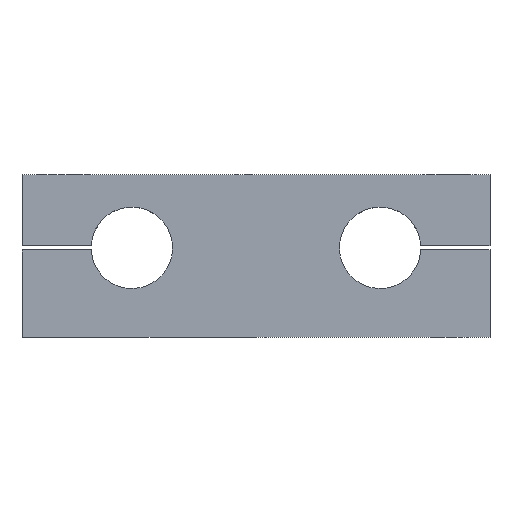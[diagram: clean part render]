
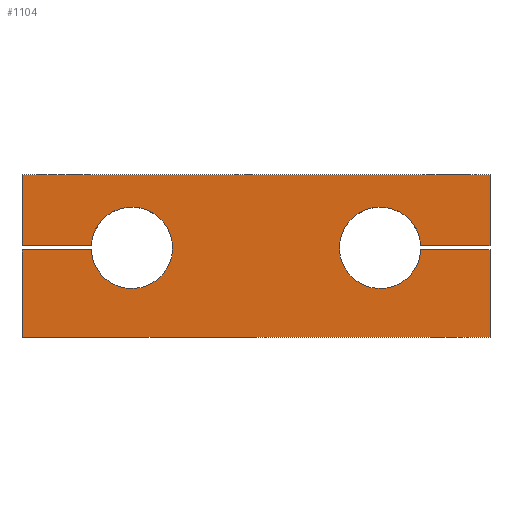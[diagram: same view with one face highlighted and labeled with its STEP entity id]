
A CAD part, top view. The second image highlights one B-rep face of the part: STEP entity #1104.
In plain terms, the highlighted planar face has unit normal (0, 0, 1).
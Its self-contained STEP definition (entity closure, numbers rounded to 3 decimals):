
#10 = VECTOR ( 'NONE', #1111, 1000. ) ;
#21 = PLANE ( 'NONE',  #122 ) ;
#25 = DIRECTION ( 'NONE',  ( 0., -1., 0. ) ) ;
#39 = EDGE_CURVE ( 'NONE', #835, #633, #185, .T. ) ;
#64 = CIRCLE ( 'NONE', #273, 20. ) ;
#69 = ORIENTED_EDGE ( 'NONE', *, *, #39, .F. ) ;
#85 = DIRECTION ( 'NONE',  ( 1., 0., 0. ) ) ;
#93 = DIRECTION ( 'NONE',  ( 1., 0., 0. ) ) ;
#110 = DIRECTION ( 'NONE',  ( 1., 0., 0. ) ) ;
#122 = AXIS2_PLACEMENT_3D ( 'NONE', #434, #200, #277 ) ;
#135 = VERTEX_POINT ( 'NONE', #567 ) ;
#141 = VECTOR ( 'NONE', #1054, 1000. ) ;
#155 = VERTEX_POINT ( 'NONE', #1081 ) ;
#162 = LINE ( 'NONE', #340, #584 ) ;
#180 = AXIS2_PLACEMENT_3D ( 'NONE', #344, #1052, #448 ) ;
#185 = LINE ( 'NONE', #272, #362 ) ;
#195 = DIRECTION ( 'NONE',  ( 0., 0., 1. ) ) ;
#200 = DIRECTION ( 'NONE',  ( 0., 0., 1. ) ) ;
#202 = CARTESIAN_POINT ( 'NONE',  ( 80.971, 5.075, 15. ) ) ;
#203 = DIRECTION ( 'NONE',  ( -1., 0., 0. ) ) ;
#204 = CARTESIAN_POINT ( 'NONE',  ( 60., 2.925, 15. ) ) ;
#210 = VERTEX_POINT ( 'NONE', #644 ) ;
#235 = LINE ( 'NONE', #672, #821 ) ;
#261 = CARTESIAN_POINT ( 'NONE',  ( -41., 4., 15. ) ) ;
#262 = ORIENTED_EDGE ( 'NONE', *, *, #761, .F. ) ;
#266 = VERTEX_POINT ( 'NONE', #925 ) ;
#271 = CARTESIAN_POINT ( 'NONE',  ( -61., 4., 15. ) ) ;
#272 = CARTESIAN_POINT ( 'NONE',  ( -115., 5.075, 15. ) ) ;
#273 = AXIS2_PLACEMENT_3D ( 'NONE', #271, #195, #110 ) ;
#274 = CARTESIAN_POINT ( 'NONE',  ( -115., 40., 15. ) ) ;
#277 = DIRECTION ( 'NONE',  ( 1., 0., 0. ) ) ;
#280 = LINE ( 'NONE', #204, #141 ) ;
#284 = ORIENTED_EDGE ( 'NONE', *, *, #582, .F. ) ;
#299 = EDGE_CURVE ( 'NONE', #972, #648, #1102, .T. ) ;
#306 = VERTEX_POINT ( 'NONE', #395 ) ;
#309 = LINE ( 'NONE', #1092, #583 ) ;
#318 = EDGE_CURVE ( 'NONE', #747, #266, #364, .T. ) ;
#320 = DIRECTION ( 'NONE',  ( 0., 0., 1. ) ) ;
#326 = DIRECTION ( 'NONE',  ( 0., -1., 0. ) ) ;
#339 = ORIENTED_EDGE ( 'NONE', *, *, #378, .T. ) ;
#340 = CARTESIAN_POINT ( 'NONE',  ( 115., 40., 15. ) ) ;
#344 = CARTESIAN_POINT ( 'NONE',  ( -61., 4., 15. ) ) ;
#346 = CARTESIAN_POINT ( 'NONE',  ( -115., 40., 15. ) ) ;
#359 = CARTESIAN_POINT ( 'NONE',  ( -80.971, 5.075, 15. ) ) ;
#362 = VECTOR ( 'NONE', #203, 1000. ) ;
#364 = CIRCLE ( 'NONE', #381, 20. ) ;
#378 = EDGE_CURVE ( 'NONE', #155, #1067, #947, .T. ) ;
#381 = AXIS2_PLACEMENT_3D ( 'NONE', #404, #320, #85 ) ;
#384 = ORIENTED_EDGE ( 'NONE', *, *, #878, .T. ) ;
#392 = VERTEX_POINT ( 'NONE', #776 ) ;
#395 = CARTESIAN_POINT ( 'NONE',  ( 115., 5.075, 15. ) ) ;
#404 = CARTESIAN_POINT ( 'NONE',  ( 61., 4., 15. ) ) ;
#420 = VECTOR ( 'NONE', #1002, 1000. ) ;
#434 = CARTESIAN_POINT ( 'NONE',  ( 0., 0., 15. ) ) ;
#445 = EDGE_LOOP ( 'NONE', ( #69, #555, #806, #985, #1057, #957, #818, #262, #478, #284, #1080, #339, #384 ) ) ;
#448 = DIRECTION ( 'NONE',  ( 1., 0., 0. ) ) ;
#478 = ORIENTED_EDGE ( 'NONE', *, *, #318, .F. ) ;
#489 = EDGE_CURVE ( 'NONE', #972, #135, #846, .T. ) ;
#520 = EDGE_CURVE ( 'NONE', #210, #392, #235, .T. ) ;
#555 = ORIENTED_EDGE ( 'NONE', *, *, #723, .F. ) ;
#567 = CARTESIAN_POINT ( 'NONE',  ( -80.971, 2.925, 15. ) ) ;
#579 = CARTESIAN_POINT ( 'NONE',  ( -115., 2.925, 15. ) ) ;
#582 = EDGE_CURVE ( 'NONE', #306, #747, #994, .T. ) ;
#583 = VECTOR ( 'NONE', #93, 1000. ) ;
#584 = VECTOR ( 'NONE', #1101, 1000. ) ;
#602 = EDGE_CURVE ( 'NONE', #648, #210, #309, .T. ) ;
#616 = FACE_OUTER_BOUND ( 'NONE', #445, .T. ) ;
#633 = VERTEX_POINT ( 'NONE', #790 ) ;
#641 = VERTEX_POINT ( 'NONE', #261 ) ;
#644 = CARTESIAN_POINT ( 'NONE',  ( 115., -40., 15. ) ) ;
#648 = VERTEX_POINT ( 'NONE', #698 ) ;
#672 = CARTESIAN_POINT ( 'NONE',  ( 115., 40., 15. ) ) ;
#697 = VECTOR ( 'NONE', #25, 1000. ) ;
#698 = CARTESIAN_POINT ( 'NONE',  ( -115., -40., 15. ) ) ;
#709 = EDGE_CURVE ( 'NONE', #135, #641, #1050, .T. ) ;
#723 = EDGE_CURVE ( 'NONE', #641, #835, #64, .T. ) ;
#747 = VERTEX_POINT ( 'NONE', #202 ) ;
#761 = EDGE_CURVE ( 'NONE', #266, #392, #280, .T. ) ;
#776 = CARTESIAN_POINT ( 'NONE',  ( 115., 2.925, 15. ) ) ;
#790 = CARTESIAN_POINT ( 'NONE',  ( -115., 5.075, 15. ) ) ;
#806 = ORIENTED_EDGE ( 'NONE', *, *, #709, .F. ) ;
#818 = ORIENTED_EDGE ( 'NONE', *, *, #520, .T. ) ;
#821 = VECTOR ( 'NONE', #922, 1000. ) ;
#835 = VERTEX_POINT ( 'NONE', #359 ) ;
#846 = LINE ( 'NONE', #579, #10 ) ;
#859 = CARTESIAN_POINT ( 'NONE',  ( -115., 2.925, 15. ) ) ;
#862 = VECTOR ( 'NONE', #326, 1000. ) ;
#878 = EDGE_CURVE ( 'NONE', #1067, #633, #1047, .T. ) ;
#904 = EDGE_CURVE ( 'NONE', #306, #155, #162, .T. ) ;
#922 = DIRECTION ( 'NONE',  ( 0., 1., 0. ) ) ;
#925 = CARTESIAN_POINT ( 'NONE',  ( 80.971, 2.925, 15. ) ) ;
#933 = CARTESIAN_POINT ( 'NONE',  ( -115., 40., 15. ) ) ;
#940 = DIRECTION ( 'NONE',  ( -1., 0., 0. ) ) ;
#947 = LINE ( 'NONE', #933, #1014 ) ;
#957 = ORIENTED_EDGE ( 'NONE', *, *, #602, .T. ) ;
#972 = VERTEX_POINT ( 'NONE', #859 ) ;
#985 = ORIENTED_EDGE ( 'NONE', *, *, #489, .F. ) ;
#994 = LINE ( 'NONE', #1086, #420 ) ;
#1002 = DIRECTION ( 'NONE',  ( -1., 0., 0. ) ) ;
#1014 = VECTOR ( 'NONE', #940, 1000. ) ;
#1047 = LINE ( 'NONE', #274, #697 ) ;
#1050 = CIRCLE ( 'NONE', #180, 20. ) ;
#1052 = DIRECTION ( 'NONE',  ( 0., 0., 1. ) ) ;
#1054 = DIRECTION ( 'NONE',  ( 1., 0., 0. ) ) ;
#1057 = ORIENTED_EDGE ( 'NONE', *, *, #299, .T. ) ;
#1067 = VERTEX_POINT ( 'NONE', #346 ) ;
#1080 = ORIENTED_EDGE ( 'NONE', *, *, #904, .T. ) ;
#1081 = CARTESIAN_POINT ( 'NONE',  ( 115., 40., 15. ) ) ;
#1086 = CARTESIAN_POINT ( 'NONE',  ( 60., 5.075, 15. ) ) ;
#1090 = CARTESIAN_POINT ( 'NONE',  ( -115., 40., 15. ) ) ;
#1092 = CARTESIAN_POINT ( 'NONE',  ( -115., -40., 15. ) ) ;
#1101 = DIRECTION ( 'NONE',  ( 0., 1., 0. ) ) ;
#1102 = LINE ( 'NONE', #1090, #862 ) ;
#1104 = ADVANCED_FACE ( 'NONE', ( #616 ), #21, .T. ) ;
#1111 = DIRECTION ( 'NONE',  ( 1., 0., 0. ) ) ;
